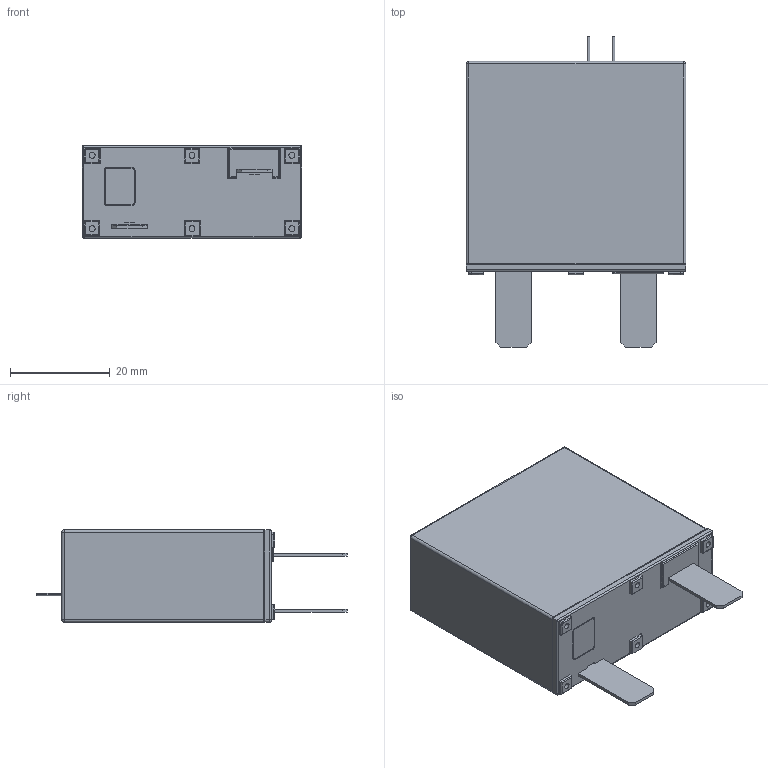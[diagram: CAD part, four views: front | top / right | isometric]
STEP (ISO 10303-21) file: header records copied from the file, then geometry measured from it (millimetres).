
FILE_DESCRIPTION((''),'2;1');
FILE_NAME('TFMOV40K-18-IT-20200620','2020-06-24T',('set'),(''),'PRO/ENGINEER BY PARAMETRIC TECHNOLOGY CORPORATION, 2012310','PRO/ENGINEER BY PARAMETRIC TECHNOLOGY CORPORATION, 2012310','');
FILE_SCHEMA(('CONFIG_CONTROL_DESIGN','SHAPE_APPEARANCE_LAYERS_GROUPS'));
Length unit declared in the file: millimetre
Products named in the file (1): TFMOV40K-18-IT-20200620
Bounding box: 44 x 62.2 x 18.5 mm (x, y, z)
Volume: 34283.9 mm3; surface area: 7635.4 mm2
Topology: 1 solids, 2 shells, 209 faces, 490 edges, 302 vertices
Faces by surface type: plane 109, cylinder 86, torus 6, sphere 6, bspline 2
Entity records: 7809 total; most frequent: CARTESIAN_POINT 1295, ORIENTED_EDGE 980, DIRECTION 970, PRESENTATION_STYLE_ASSIGNMENT 509, STYLED_ITEM 491, CURVE_STYLE 490, EDGE_CURVE 490, VECTOR 344
